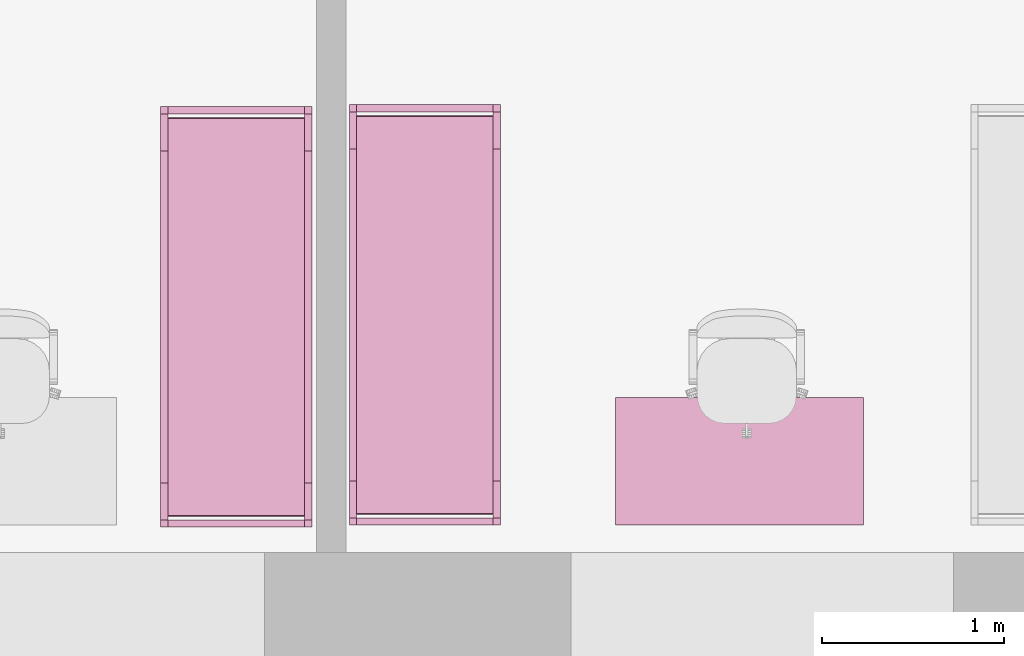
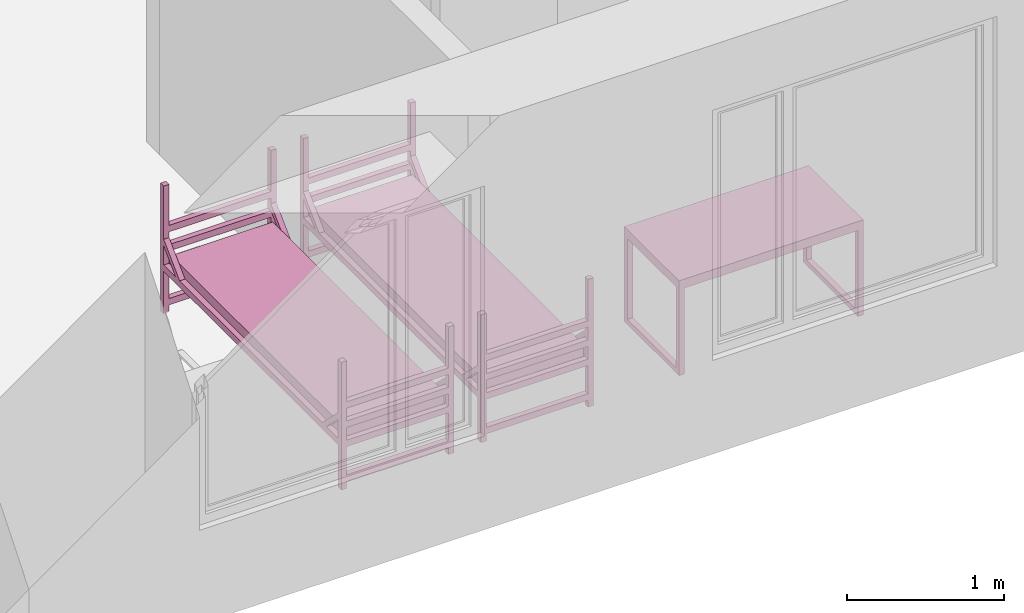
# One storey, part 19 of 46: 3 furnishings.
"""IFC2X3 building model written with IfcOpenShell, lengths in millimetres."""

from ifc_helpers import new_model, entity, si_unit, converted_unit, derived_unit, direction, frame, frame_2d, origin, origin_2d_with_axis, place, context, subcontext, project, spatial, polyline, circle_curve, parameter, trimmed, segment, composite_curve, rectangle, outline, extrude, faceted_brep, source, transform, mapped, material, material_list, type_object, type_shapes, element, save


model = new_model("IFC2X3")

# Units and contexts
model_context = context("Model", 3, precision=0.01, world=origin(), true_north=direction((6.12303176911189e-17, 1.0)))
body_context = subcontext(model_context, "Body", "Model", "MODEL_VIEW")
ifc_project = project(units=[si_unit("LENGTHUNIT", "METRE", prefix="MILLI"), si_unit("AREAUNIT", "SQUARE_METRE"), si_unit("VOLUMEUNIT", "CUBIC_METRE"), converted_unit("PLANEANGLEUNIT", "DEGREE", entity("IfcRatioMeasure", 0.0174532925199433), si_unit("PLANEANGLEUNIT", "RADIAN"), dimensions=[0, 0, 0, 0, 0, 0, 0]), si_unit("MASSUNIT", "GRAM", prefix="KILO"), derived_unit("MASSDENSITYUNIT", [(si_unit("MASSUNIT", "GRAM", prefix="KILO"), 1), (si_unit("LENGTHUNIT", "METRE"), -3)]), si_unit("TIMEUNIT", "SECOND"), si_unit("FREQUENCYUNIT", "HERTZ"), si_unit("THERMODYNAMICTEMPERATUREUNIT", "DEGREE_CELSIUS"), derived_unit("THERMALTRANSMITTANCEUNIT", [(si_unit("MASSUNIT", "GRAM", prefix="KILO"), 1), (si_unit("THERMODYNAMICTEMPERATUREUNIT", "KELVIN"), -1), (si_unit("TIMEUNIT", "SECOND"), -3)]), derived_unit("VOLUMETRICFLOWRATEUNIT", [(si_unit("LENGTHUNIT", "METRE"), 3), (si_unit("TIMEUNIT", "SECOND"), -1)]), si_unit("ELECTRICCURRENTUNIT", "AMPERE"), si_unit("ELECTRICVOLTAGEUNIT", "VOLT"), si_unit("POWERUNIT", "WATT"), si_unit("FORCEUNIT", "NEWTON", prefix="KILO"), si_unit("ILLUMINANCEUNIT", "LUX"), si_unit("LUMINOUSFLUXUNIT", "LUMEN"), si_unit("LUMINOUSINTENSITYUNIT", "CANDELA"), derived_unit("USERDEFINED", [(si_unit("MASSUNIT", "GRAM", prefix="KILO"), -1), (si_unit("LENGTHUNIT", "METRE"), -2), (si_unit("TIMEUNIT", "SECOND"), 3), (si_unit("LUMINOUSFLUXUNIT", "LUMEN"), 1)]), derived_unit("LINEARVELOCITYUNIT", [(si_unit("LENGTHUNIT", "METRE"), 1), (si_unit("TIMEUNIT", "SECOND"), -1)]), si_unit("PRESSUREUNIT", "PASCAL"), derived_unit("USERDEFINED", [(si_unit("LENGTHUNIT", "METRE"), -2), (si_unit("MASSUNIT", "GRAM", prefix="KILO"), 1), (si_unit("TIMEUNIT", "SECOND"), -2)]), derived_unit("LINEARFORCEUNIT", [(si_unit("MASSUNIT", "GRAM", prefix="KILO"), 1), (si_unit("LENGTHUNIT", "METRE"), 1), (si_unit("TIMEUNIT", "SECOND"), -2), (si_unit("LENGTHUNIT", "METRE"), -1)]), derived_unit("PLANARFORCEUNIT", [(si_unit("MASSUNIT", "GRAM", prefix="KILO"), 1), (si_unit("LENGTHUNIT", "METRE"), 1), (si_unit("TIMEUNIT", "SECOND"), -2), (si_unit("LENGTHUNIT", "METRE"), -2)])], contexts=[model_context])

# Site, building, storey, space
site_placement = place(None, origin())
site = spatial("IfcSite", under=ifc_project, at=site_placement, Name="Default", CompositionType="ELEMENT")
building_placement = place(site_placement, origin())
building = spatial("IfcBuilding", under=site, at=building_placement, Name="SMA ARH", CompositionType="ELEMENT")
storey_placement = place(building_placement, frame((0.0, 0.0, 9910.0)))
storey = spatial("IfcBuildingStorey", under=building, at=storey_placement, Name="4 Korrus", CompositionType="ELEMENT", Elevation=9909.9999999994)
space_1_placement = place(storey_placement, origin())
space_1 = spatial("IfcSpace", under=storey, at=space_1_placement, Name="4-15", CompositionType="ELEMENT", InteriorOrExteriorSpace="INTERNAL")

# Furnishing
ifc_material_1 = material(Name="Madrats")
furniture_type_1 = type_object("IfcFurnitureType", Name="Kasarmu voodi ühekordne 2308x830:Kasarmu voodi ühekordne 2308x830", material=ifc_material_1)
shared_shape_1 = source(origin(), body_context, "Body", "SweptSolid", [
    extrude(rectangle(XDim=39.9999999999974, YDim=750.000000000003, at=frame_2d((-1.35003119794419e-13, -2.8421709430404e-14), x_axis=(1.0, 0.0))), frame((1.68638457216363, -1226.7969571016, 55.0), z_axis=(0.0, 0.0, 1.0), x_axis=(0.0, -1.0, 0.0)), (0.0, 0.0, 1.0), 49.9999999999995),
    extrude(rectangle(XDim=39.9999999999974, YDim=750.000000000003, at=frame_2d((-1.35003119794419e-13, -2.8421709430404e-14), x_axis=(1.0, 0.0))), frame((1.68638457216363, -1226.7969571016, 325.0), z_axis=(0.0, 0.0, 1.0), x_axis=(0.0, -1.0, 0.0)), (0.0, 0.0, 1.0), 49.9999999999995),
    extrude(rectangle(XDim=39.9999999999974, YDim=750.000000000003, at=frame_2d((-1.35003119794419e-13, -2.8421709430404e-14), x_axis=(1.0, 0.0))), frame((1.68638457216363, -1226.7969571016, 475.0), z_axis=(0.0, 0.0, 1.0), x_axis=(0.0, -1.0, 0.0)), (0.0, 0.0, 1.0), 49.9999999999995),
    extrude(rectangle(XDim=39.9999999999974, YDim=750.000000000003, at=frame_2d((-1.35003119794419e-13, -2.8421709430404e-14), x_axis=(1.0, 0.0))), frame((1.68638457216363, -1226.7969571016, 625.0), z_axis=(0.0, 0.0, 1.0), x_axis=(0.0, -1.0, 0.0)), (0.0, 0.0, 1.0), 50.0000000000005),
    extrude(rectangle(XDim=39.9999999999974, YDim=750.000000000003, at=frame_2d((1.35003119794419e-13, -2.8421709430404e-14), x_axis=(1.0, 0.0))), frame((1.68638457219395, 1041.2030428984, 55.0), z_axis=(0.0, 0.0, 1.0), x_axis=(0.0, -1.0, 0.0)), (0.0, 0.0, 1.0), 50.0000000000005),
    extrude(rectangle(XDim=39.9999999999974, YDim=750.000000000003, at=frame_2d((1.35003119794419e-13, -2.8421709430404e-14), x_axis=(1.0, 0.0))), frame((1.68638457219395, 1041.2030428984, 325.0), z_axis=(0.0, 0.0, 1.0), x_axis=(0.0, -1.0, 0.0)), (0.0, 0.0, 1.0), 50.0000000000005),
    extrude(rectangle(XDim=39.9999999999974, YDim=750.000000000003, at=frame_2d((1.35003119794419e-13, -2.8421709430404e-14), x_axis=(1.0, 0.0))), frame((1.68638457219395, 1041.2030428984, 475.0), z_axis=(0.0, 0.0, 1.0), x_axis=(0.0, -1.0, 0.0)), (0.0, 0.0, 1.0), 50.0000000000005),
    extrude(rectangle(XDim=39.9999999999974, YDim=750.000000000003, at=frame_2d((1.35003119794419e-13, -2.8421709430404e-14), x_axis=(1.0, 0.0))), frame((1.68638457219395, 1041.2030428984, 625.0), z_axis=(0.0, 0.0, 1.0), x_axis=(0.0, -1.0, 0.0)), (0.0, 0.0, 1.0), 49.9999999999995),
    extrude(outline(composite_curve([segment(trimmed(circle_curve(frame_2d((1085.0, -40.0), x_axis=(1.0, 0.0)), 10.0), [parameter(270.0)], [parameter(0.0)], True, "PARAMETER"), True, "CONTINUOUS"), segment(polyline([(1095.0, -40.0), (1095.0, 40.0)]), True, "CONTINUOUS"), segment(trimmed(circle_curve(frame_2d((1085.0, 40.0), x_axis=(1.0, 0.0)), 10.0), [parameter(0.0)], [parameter(90.0000000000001)], True, "PARAMETER"), True, "CONTINUOUS"), segment(polyline([(1085.0, 50.0), (-1085.0, 50.0)]), True, "CONTINUOUS"), segment(trimmed(circle_curve(frame_2d((-1085.0, 40.0), x_axis=(1.0, 0.0)), 10.0), [parameter(90.0000000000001)], [parameter(180.0)], True, "PARAMETER"), True, "CONTINUOUS"), segment(polyline([(-1095.0, 40.0), (-1095.0, -40.0)]), True, "CONTINUOUS"), segment(trimmed(circle_curve(frame_2d((-1085.0, -40.0), x_axis=(1.0, 0.0)), 10.0), [parameter(180.0)], [parameter(270.0)], True, "PARAMETER"), True, "CONTINUOUS"), segment(polyline([(-1085.0, -50.0), (1085.0, -50.0)]), True, "CONTINUOUS")], self_intersect=False)), frame((-373.313615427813, -92.7969571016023, 405.0), z_axis=(1.0, 0.0, 0.0), x_axis=(0.0, -1.0, 0.0)), (0.0, 0.0, 1.0), 750.000000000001),
    extrude(outline(polyline([(-1114.0, -100.0), (1114.0, -100.0), (1114.0, -50.0), (961.59199141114, -50.0), (1114.0, 100.0), (1114.0, 150.0), (910.789321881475, -50.0), (-910.789321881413, -50.0), (-1114.0, 150.0), (-1114.0, 100.0), (-961.591991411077, -50.0), (-1114.0, -50.0), (-1114.0, -100.0)])), frame((-413.313615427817, -92.7969571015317, 430.0), z_axis=(1.0, 0.0, 0.0), x_axis=(0.0, 1.0, 0.0)), (0.0, 0.0, 1.0), 39.9999999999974),
    extrude(outline(polyline([(-1114.0, -100.0), (1114.0, -100.0), (1114.0, -50.0), (961.591991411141, -50.0), (1114.0, 100.0), (1114.0, 150.0), (910.789321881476, -50.0), (-910.789321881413, -50.0), (-1114.0, 150.0), (-1114.0, 100.0), (-961.591991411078, -50.0), (-1114.0, -50.0), (-1114.0, -100.0)])), frame((376.686384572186, -92.796957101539, 430.0), z_axis=(1.0, 0.0, 0.0), x_axis=(0.0, 1.0, 0.0)), (0.0, 0.0, 1.0), 39.9999999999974),
    extrude(rectangle(XDim=39.9999999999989, YDim=39.9999999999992, at=frame_2d((-6.75015598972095e-14, 0.0), x_axis=(1.0, 0.0))), frame((396.686384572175, -1226.79695710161, 0.0), z_axis=(0.0, 0.0, 1.0), x_axis=(0.0, 1.0, 0.0)), (0.0, 0.0, 1.0), 995.0),
    extrude(rectangle(XDim=39.9999999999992, YDim=39.9999999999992, at=frame_2d((-1.35003119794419e-13, 0.0), x_axis=(1.0, 0.0))), frame((396.686384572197, 1041.20304289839, 0.0), z_axis=(0.0, 0.0, 1.0), x_axis=(0.0, 1.0, 0.0)), (0.0, 0.0, 1.0), 995.0),
    extrude(rectangle(XDim=40.0000000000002, YDim=39.9999999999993, at=frame_2d((-1.35003119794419e-13, 0.0), x_axis=(1.0, 0.0))), frame((-393.313615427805, 1041.2030428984, 0.0), z_axis=(0.0, 0.0, 1.0), x_axis=(0.0, 1.0, 0.0)), (0.0, 0.0, 1.0), 995.0),
    extrude(rectangle(XDim=39.9999999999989, YDim=39.9999999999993, at=frame_2d((-6.75015598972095e-14, 0.0), x_axis=(1.0, 0.0))), frame((-393.313615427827, -1226.7969571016, 0.0), z_axis=(0.0, 0.0, 1.0), x_axis=(0.0, 1.0, 0.0)), (0.0, 0.0, 1.0), 995.0),
])
type_shapes(furniture_type_1, [shared_shape_1])
furnishing_1_placement = place(space_1_placement, frame((3185.0, 1200.0, 0.0), z_axis=(0.0, 0.0, 1.0), x_axis=(-1.0, 0.0, 0.0)))
element("IfcFurnishingElement", 1, at=furnishing_1_placement, inside=space_1, type_object=furniture_type_1, material=ifc_material_1, Name="Kasarmu voodi ühekordne 2308x830:Kasarmu voodi ühekordne 2308x830", ObjectType="Kasarmu voodi ühekordne 2308x830:Kasarmu voodi ühekordne 2308x830", context=body_context, shape_type="MappedRepresentation", body=[
    mapped(shared_shape_1, transform((0.0, 0.0, 0.0), scale=1.0)),
])

# Space
space_2_placement = place(storey_placement, origin())
space_2 = spatial("IfcSpace", under=storey, at=space_2_placement, Name="4-14", CompositionType="ELEMENT", InteriorOrExteriorSpace="INTERNAL")

# Furnishings
ifc_material_2 = material(Name="<Unnamed>")
ifc_material_list = material_list([ifc_material_2, ifc_material_2])
furniture_type_2 = type_object("IfcFurnitureType", Name="kirjutuslaud 1360x700mm:kirjutuslaud 1360x700mm", material=ifc_material_list)
shared_shape_2 = source(origin(), body_context, "Body", "Brep", [
    faceted_brep([(680.0, -350.0, 720.0), (680.0, 350.0, 720.0), (680.0, 350.0, 750.0), (680.0, -350.0, 750.0), (-680.0, -350.0, 720.0), (-680.0, -350.0, 750.0), (-680.0, 350.0, 750.0), (-680.0, 350.0, 720.0)], [[[0, 1, 2, 3]], [[4, 5, 6, 7]], [[1, 0, 4, 7]], [[2, 1, 7, 6]], [[3, 2, 6, 5]], [[0, 3, 5, 4]]]),
    faceted_brep([(-640.0, -310.0, 680.0), (-640.0, 310.0, 680.0), (-640.0, 310.0, 720.0), (-640.0, -310.0, 720.0), (-680.0, -350.0, 720.0), (-680.0, 350.0, 720.0), (-680.0, 350.0, 10.0), (-680.0, -350.0, 10.0), (-680.0, 310.0, 680.0), (-680.0, -310.0, 680.0), (-680.0, -310.0, 50.0), (-680.0, 310.0, 50.0), (-640.0, -350.0, 10.0), (-640.0, -350.0, 680.0), (640.0, -350.0, 680.0), (640.0, -350.0, 10.0), (680.0, -350.0, 10.0), (680.0, -350.0, 720.0), (-640.0, 350.0, 10.0), (680.0, 350.0, 720.0), (680.0, 350.0, 10.0), (640.0, 350.0, 10.0), (640.0, 350.0, 680.0), (-640.0, 350.0, 680.0), (640.0, 310.0, 720.0), (640.0, -310.0, 720.0), (-640.0, 310.0, 50.0), (-640.0, -310.0, 50.0), (640.0, -310.0, 680.0), (640.0, 310.0, 680.0), (680.0, 310.0, 680.0), (680.0, 310.0, 50.0), (680.0, -310.0, 50.0), (680.0, -310.0, 680.0), (640.0, -310.0, 50.0), (640.0, 310.0, 50.0)], [[[0, 1, 2, 3]], [[4, 5, 6, 7], [8, 9, 10, 11]], [[4, 7, 12, 13, 14, 15, 16, 17]], [[18, 12, 7, 6]], [[6, 5, 19, 20, 21, 22, 23, 18]], [[19, 5, 4, 17], [2, 24, 25, 3]], [[26, 1, 8, 11]], [[27, 26, 11, 10]], [[0, 27, 10, 9]], [[1, 0, 9, 8]], [[14, 13, 0, 28]], [[24, 2, 1, 29]], [[3, 25, 28, 0]], [[17, 16, 20, 19], [30, 31, 32, 33]], [[21, 15, 14, 28, 34, 35, 29, 22]], [[20, 16, 15, 21]], [[31, 30, 29, 35]], [[32, 31, 35, 34]], [[33, 32, 34, 28]], [[30, 33, 28, 29]], [[29, 28, 25, 24]], [[29, 1, 23, 22]], [[12, 18, 23, 1, 26, 27, 0, 13]]]),
    faceted_brep([(-663.729456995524, -270.466136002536, 0.0), (-659.847171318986, -269.955023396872, 0.0), (-655.964885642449, -270.466136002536, 0.0), (-652.347171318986, -271.964642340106, 0.0), (-649.240569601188, -274.348421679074, 0.0), (-646.85679026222, -277.455023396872, 0.0), (-645.35828392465, -281.072737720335, 0.0), (-644.847171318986, -284.955023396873, 0.0), (-645.35828392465, -288.83730907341, 0.0), (-646.85679026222, -292.455023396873, 0.0), (-649.240569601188, -295.561625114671, 0.0), (-652.347171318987, -297.945404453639, 0.0), (-655.964885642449, -299.443910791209, 0.0), (-659.847171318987, -299.955023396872, 0.0), (-663.729456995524, -299.443910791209, 0.0), (-667.347171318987, -297.945404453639, 0.0), (-670.453773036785, -295.561625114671, 0.0), (-672.837552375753, -292.455023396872, 0.0), (-674.336058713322, -288.83730907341, 0.0), (-674.847171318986, -284.955023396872, 0.0), (-674.336058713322, -281.072737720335, 0.0), (-672.837552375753, -277.455023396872, 0.0), (-670.453773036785, -274.348421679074, 0.0), (-667.347171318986, -271.964642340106, 0.0), (-655.964885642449, -299.443910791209, 10.0), (-652.347171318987, -297.945404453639, 10.0), (-649.240569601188, -295.561625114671, 10.0), (-646.85679026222, -292.455023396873, 10.0), (-645.35828392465, -288.83730907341, 10.0), (-644.847171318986, -284.955023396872, 10.0), (-645.35828392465, -281.072737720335, 10.0), (-646.85679026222, -277.455023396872, 10.0), (-649.240569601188, -274.348421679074, 10.0), (-652.347171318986, -271.964642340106, 10.0), (-655.964885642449, -270.466136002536, 10.0), (-659.847171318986, -269.955023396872, 10.0), (-663.729456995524, -270.466136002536, 10.0), (-667.347171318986, -271.964642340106, 10.0), (-670.453773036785, -274.348421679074, 10.0), (-672.837552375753, -277.455023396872, 10.0), (-674.336058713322, -281.072737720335, 10.0), (-674.847171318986, -284.955023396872, 10.0), (-674.336058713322, -288.83730907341, 10.0), (-672.837552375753, -292.455023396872, 10.0), (-670.453773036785, -295.561625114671, 10.0), (-667.347171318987, -297.945404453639, 10.0), (-663.729456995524, -299.443910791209, 10.0), (-659.847171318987, -299.955023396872, 10.0)], [[[0, 1, 2, 3, 4, 5, 6, 7, 8, 9, 10, 11, 12, 13, 14, 15, 16, 17, 18, 19, 20, 21, 22, 23]], [[24, 25, 26, 27, 28, 29, 30, 31, 32, 33, 34, 35, 36, 37, 38, 39, 40, 41, 42, 43, 44, 45, 46, 47]], [[18, 42, 41, 19]], [[17, 43, 42, 18]], [[45, 44, 16, 15]], [[17, 16, 44, 43]], [[46, 45, 15, 14]], [[47, 46, 14, 13]], [[12, 24, 47, 13]], [[11, 25, 24, 12]], [[27, 26, 10, 9]], [[11, 10, 26, 25]], [[28, 27, 9, 8]], [[29, 28, 8, 7]], [[6, 30, 29, 7]], [[5, 31, 30, 6]], [[33, 32, 4, 3]], [[5, 4, 32, 31]], [[34, 33, 3, 2]], [[35, 34, 2, 1]], [[0, 36, 35, 1]], [[23, 37, 36, 0]], [[39, 38, 22, 21]], [[23, 22, 38, 37]], [[40, 39, 21, 20]], [[41, 40, 20, 19]]]),
    faceted_brep([(-655.964885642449, 270.466136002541, 10.0), (-652.347171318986, 271.964642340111, 10.0), (-649.240569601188, 274.348421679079, 10.0), (-646.85679026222, 277.455023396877, 10.0), (-645.35828392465, 281.07273772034, 10.0), (-644.847171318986, 284.955023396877, 10.0), (-645.35828392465, 288.837309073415, 10.0), (-646.85679026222, 292.455023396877, 10.0), (-649.240569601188, 295.561625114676, 10.0), (-652.347171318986, 297.945404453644, 10.0), (-655.964885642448, 299.443910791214, 10.0), (-659.847171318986, 299.955023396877, 10.0), (-663.729456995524, 299.443910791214, 10.0), (-667.347171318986, 297.945404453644, 10.0), (-670.453773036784, 295.561625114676, 10.0), (-672.837552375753, 292.455023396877, 10.0), (-674.336058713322, 288.837309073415, 10.0), (-674.847171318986, 284.955023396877, 10.0), (-674.336058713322, 281.07273772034, 10.0), (-672.837552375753, 277.455023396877, 10.0), (-670.453773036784, 274.348421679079, 10.0), (-667.347171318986, 271.964642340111, 10.0), (-663.729456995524, 270.466136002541, 10.0), (-659.847171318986, 269.955023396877, 10.0), (-655.964885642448, 299.443910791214, 0.0), (-652.347171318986, 297.945404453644, 0.0), (-649.240569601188, 295.561625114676, 0.0), (-646.85679026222, 292.455023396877, 0.0), (-645.35828392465, 288.837309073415, 0.0), (-644.847171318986, 284.955023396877, 0.0), (-645.35828392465, 281.07273772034, 0.0), (-646.85679026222, 277.455023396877, 0.0), (-649.240569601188, 274.348421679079, 0.0), (-652.347171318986, 271.964642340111, 0.0), (-655.964885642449, 270.466136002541, 0.0), (-659.847171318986, 269.955023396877, 0.0), (-663.729456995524, 270.466136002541, 0.0), (-667.347171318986, 271.964642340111, 0.0), (-670.453773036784, 274.348421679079, 0.0), (-672.837552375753, 277.455023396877, 0.0), (-674.336058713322, 281.07273772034, 0.0), (-674.847171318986, 284.955023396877, 0.0), (-674.336058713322, 288.837309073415, 0.0), (-672.837552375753, 292.455023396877, 0.0), (-670.453773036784, 295.561625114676, 0.0), (-667.347171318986, 297.945404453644, 0.0), (-663.729456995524, 299.443910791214, 0.0), (-659.847171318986, 299.955023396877, 0.0)], [[[0, 1, 2, 3, 4, 5, 6, 7, 8, 9, 10, 11, 12, 13, 14, 15, 16, 17, 18, 19, 20, 21, 22, 23]], [[24, 25, 26, 27, 28, 29, 30, 31, 32, 33, 34, 35, 36, 37, 38, 39, 40, 41, 42, 43, 44, 45, 46, 47]], [[40, 18, 17, 41]], [[39, 19, 18, 40]], [[21, 20, 38, 37]], [[39, 38, 20, 19]], [[22, 21, 37, 36]], [[23, 22, 36, 35]], [[34, 0, 23, 35]], [[33, 1, 0, 34]], [[3, 2, 32, 31]], [[33, 32, 2, 1]], [[4, 3, 31, 30]], [[5, 4, 30, 29]], [[28, 6, 5, 29]], [[27, 7, 6, 28]], [[9, 8, 26, 25]], [[27, 26, 8, 7]], [[10, 9, 25, 24]], [[11, 10, 24, 47]], [[46, 12, 11, 47]], [[45, 13, 12, 46]], [[15, 14, 44, 43]], [[45, 44, 14, 13]], [[16, 15, 43, 42]], [[17, 16, 42, 41]]]),
    faceted_brep([(656.270543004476, -270.466136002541, 0.0), (660.152828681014, -269.955023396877, 0.0), (664.035114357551, -270.466136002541, 0.0), (667.652828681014, -271.96464234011, 0.0), (670.759430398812, -274.348421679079, 0.0), (673.14320973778, -277.455023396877, 0.0), (674.64171607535, -281.072737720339, 0.0), (675.152828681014, -284.955023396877, 0.0), (674.64171607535, -288.837309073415, 0.0), (673.14320973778, -292.455023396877, 0.0), (670.759430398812, -295.561625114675, 0.0), (667.652828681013, -297.945404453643, 0.0), (664.035114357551, -299.443910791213, 0.0), (660.152828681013, -299.955023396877, 0.0), (656.270543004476, -299.443910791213, 0.0), (652.652828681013, -297.945404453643, 0.0), (649.546226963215, -295.561625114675, 0.0), (647.162447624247, -292.455023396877, 0.0), (645.663941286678, -288.837309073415, 0.0), (645.152828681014, -284.955023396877, 0.0), (645.663941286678, -281.072737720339, 0.0), (647.162447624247, -277.455023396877, 0.0), (649.546226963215, -274.348421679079, 0.0), (652.652828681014, -271.96464234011, 0.0), (664.035114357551, -299.443910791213, 10.0), (667.652828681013, -297.945404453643, 10.0), (670.759430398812, -295.561625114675, 10.0), (673.14320973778, -292.455023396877, 10.0), (674.64171607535, -288.837309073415, 10.0), (675.152828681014, -284.955023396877, 10.0), (674.64171607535, -281.072737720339, 10.0), (673.14320973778, -277.455023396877, 10.0), (670.759430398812, -274.348421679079, 10.0), (667.652828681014, -271.96464234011, 10.0), (664.035114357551, -270.466136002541, 10.0), (660.152828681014, -269.955023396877, 10.0), (656.270543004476, -270.466136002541, 10.0), (652.652828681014, -271.96464234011, 10.0), (649.546226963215, -274.348421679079, 10.0), (647.162447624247, -277.455023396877, 10.0), (645.663941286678, -281.072737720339, 10.0), (645.152828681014, -284.955023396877, 10.0), (645.663941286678, -288.837309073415, 10.0), (647.162447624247, -292.455023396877, 10.0), (649.546226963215, -295.561625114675, 10.0), (652.652828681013, -297.945404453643, 10.0), (656.270543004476, -299.443910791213, 10.0), (660.152828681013, -299.955023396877, 10.0)], [[[0, 1, 2, 3, 4, 5, 6, 7, 8, 9, 10, 11, 12, 13, 14, 15, 16, 17, 18, 19, 20, 21, 22, 23]], [[24, 25, 26, 27, 28, 29, 30, 31, 32, 33, 34, 35, 36, 37, 38, 39, 40, 41, 42, 43, 44, 45, 46, 47]], [[18, 42, 41, 19]], [[17, 43, 42, 18]], [[45, 44, 16, 15]], [[17, 16, 44, 43]], [[46, 45, 15, 14]], [[47, 46, 14, 13]], [[12, 24, 47, 13]], [[11, 25, 24, 12]], [[27, 26, 10, 9]], [[11, 10, 26, 25]], [[28, 27, 9, 8]], [[29, 28, 8, 7]], [[6, 30, 29, 7]], [[5, 31, 30, 6]], [[33, 32, 4, 3]], [[5, 4, 32, 31]], [[34, 33, 3, 2]], [[35, 34, 2, 1]], [[0, 36, 35, 1]], [[23, 37, 36, 0]], [[39, 38, 22, 21]], [[23, 22, 38, 37]], [[40, 39, 21, 20]], [[41, 40, 20, 19]]]),
    faceted_brep([(664.035114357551, 270.466136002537, 10.0), (667.652828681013, 271.964642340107, 10.0), (670.759430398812, 274.348421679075, 10.0), (673.14320973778, 277.455023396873, 10.0), (674.64171607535, 281.072737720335, 10.0), (675.152828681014, 284.955023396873, 10.0), (674.64171607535, 288.837309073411, 10.0), (673.14320973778, 292.455023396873, 10.0), (670.759430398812, 295.561625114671, 10.0), (667.652828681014, 297.94540445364, 10.0), (664.035114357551, 299.443910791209, 10.0), (660.152828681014, 299.955023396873, 10.0), (656.270543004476, 299.443910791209, 10.0), (652.652828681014, 297.94540445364, 10.0), (649.546226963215, 295.561625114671, 10.0), (647.162447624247, 292.455023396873, 10.0), (645.663941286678, 288.837309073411, 10.0), (645.152828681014, 284.955023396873, 10.0), (645.663941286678, 281.072737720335, 10.0), (647.162447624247, 277.455023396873, 10.0), (649.546226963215, 274.348421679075, 10.0), (652.652828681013, 271.964642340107, 10.0), (656.270543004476, 270.466136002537, 10.0), (660.152828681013, 269.955023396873, 10.0), (664.035114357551, 299.443910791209, 0.0), (667.652828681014, 297.94540445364, 0.0), (670.759430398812, 295.561625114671, 0.0), (673.14320973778, 292.455023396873, 0.0), (674.64171607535, 288.837309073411, 0.0), (675.152828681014, 284.955023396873, 0.0), (674.64171607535, 281.072737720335, 0.0), (673.14320973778, 277.455023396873, 0.0), (670.759430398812, 274.348421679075, 0.0), (667.652828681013, 271.964642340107, 0.0), (664.035114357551, 270.466136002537, 0.0), (660.152828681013, 269.955023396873, 0.0), (656.270543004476, 270.466136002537, 0.0), (652.652828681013, 271.964642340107, 0.0), (649.546226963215, 274.348421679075, 0.0), (647.162447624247, 277.455023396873, 0.0), (645.663941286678, 281.072737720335, 0.0), (645.152828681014, 284.955023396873, 0.0), (645.663941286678, 288.837309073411, 0.0), (647.162447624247, 292.455023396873, 0.0), (649.546226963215, 295.561625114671, 0.0), (652.652828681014, 297.94540445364, 0.0), (656.270543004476, 299.443910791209, 0.0), (660.152828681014, 299.955023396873, 0.0)], [[[0, 1, 2, 3, 4, 5, 6, 7, 8, 9, 10, 11, 12, 13, 14, 15, 16, 17, 18, 19, 20, 21, 22, 23]], [[24, 25, 26, 27, 28, 29, 30, 31, 32, 33, 34, 35, 36, 37, 38, 39, 40, 41, 42, 43, 44, 45, 46, 47]], [[40, 18, 17, 41]], [[39, 19, 18, 40]], [[21, 20, 38, 37]], [[39, 38, 20, 19]], [[22, 21, 37, 36]], [[23, 22, 36, 35]], [[34, 0, 23, 35]], [[33, 1, 0, 34]], [[3, 2, 32, 31]], [[33, 32, 2, 1]], [[4, 3, 31, 30]], [[5, 4, 30, 29]], [[28, 6, 5, 29]], [[27, 7, 6, 28]], [[9, 8, 26, 25]], [[27, 26, 8, 7]], [[10, 9, 25, 24]], [[11, 10, 24, 47]], [[46, 12, 11, 47]], [[45, 13, 12, 46]], [[15, 14, 44, 43]], [[45, 44, 14, 13]], [[16, 15, 43, 42]], [[17, 16, 42, 41]]]),
])
type_shapes(furniture_type_2, [shared_shape_2])
furnishing_2_placement = place(space_2_placement, frame((5945.50000000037, 500.0, 0.0)))
element("IfcFurnishingElement", 2, at=furnishing_2_placement, inside=space_2, type_object=furniture_type_2, Name="kirjutuslaud 1360x700mm:kirjutuslaud 1360x700mm", ObjectType="kirjutuslaud 1360x700mm:kirjutuslaud 1360x700mm", context=body_context, shape_type="MappedRepresentation", body=[
    mapped(shared_shape_2, transform((0.0, 0.0, 0.0), scale=1.0)),
])
furniture_type_3 = type_object("IfcFurnitureType", Name="Kasarmu voodi ühekordne 2308x830:Kasarmu voodi ühekordne 2308x830", material=ifc_material_1)
shared_shape_3 = source(origin(), body_context, "Body", "SweptSolid", [
    extrude(rectangle(XDim=750.000000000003, YDim=39.9999999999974, at=frame_2d((0.0, 1.35003119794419e-13), x_axis=(1.0, 0.0))), frame((1.68638457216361, 1226.7969571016, 55.0)), (0.0, 0.0, 1.0), 49.9999999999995),
    extrude(rectangle(XDim=750.000000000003, YDim=39.9999999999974, at=frame_2d((0.0, 1.35003119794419e-13), x_axis=(1.0, 0.0))), frame((1.68638457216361, 1226.7969571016, 325.0)), (0.0, 0.0, 1.0), 49.9999999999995),
    extrude(rectangle(XDim=750.000000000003, YDim=39.9999999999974, at=frame_2d((0.0, 1.35003119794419e-13), x_axis=(1.0, 0.0))), frame((1.68638457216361, 1226.7969571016, 475.0)), (0.0, 0.0, 1.0), 49.9999999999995),
    extrude(rectangle(XDim=750.000000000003, YDim=39.9999999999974, at=frame_2d((0.0, 1.35003119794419e-13), x_axis=(1.0, 0.0))), frame((1.68638457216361, 1226.7969571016, 625.0)), (0.0, 0.0, 1.0), 50.0000000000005),
    extrude(rectangle(XDim=750.000000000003, YDim=39.9999999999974, at=origin_2d_with_axis()), frame((1.68638457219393, -1041.2030428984, 55.0)), (0.0, 0.0, 1.0), 50.0000000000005),
    extrude(rectangle(XDim=750.000000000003, YDim=39.9999999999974, at=origin_2d_with_axis()), frame((1.68638457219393, -1041.2030428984, 325.0)), (0.0, 0.0, 1.0), 50.0000000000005),
    extrude(rectangle(XDim=750.000000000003, YDim=39.9999999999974, at=origin_2d_with_axis()), frame((1.68638457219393, -1041.2030428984, 475.0)), (0.0, 0.0, 1.0), 50.0000000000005),
    extrude(rectangle(XDim=750.000000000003, YDim=39.9999999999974, at=origin_2d_with_axis()), frame((1.68638457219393, -1041.2030428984, 625.0)), (0.0, 0.0, 1.0), 49.9999999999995),
    extrude(outline(composite_curve([segment(polyline([(-1085.0, -50.0), (1085.0, -50.0)]), True, "CONTINUOUS"), segment(trimmed(circle_curve(frame_2d((1085.0, -40.0), x_axis=(-1.0, 0.0)), 10.0), [parameter(90.0000000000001)], [parameter(180.0)], True, "PARAMETER"), True, "CONTINUOUS"), segment(polyline([(1095.0, -40.0), (1095.0, 40.0)]), True, "CONTINUOUS"), segment(trimmed(circle_curve(frame_2d((1085.0, 40.0), x_axis=(-1.0, 0.0)), 10.0), [parameter(180.0)], [parameter(270.0)], True, "PARAMETER"), True, "CONTINUOUS"), segment(polyline([(1085.0, 50.0), (-1085.0, 50.0)]), True, "CONTINUOUS"), segment(trimmed(circle_curve(frame_2d((-1085.0, 40.0), x_axis=(-1.0, 0.0)), 10.0), [parameter(270.0)], [parameter(0.0)], True, "PARAMETER"), True, "CONTINUOUS"), segment(polyline([(-1095.0, 40.0), (-1095.0, -40.0)]), True, "CONTINUOUS"), segment(trimmed(circle_curve(frame_2d((-1085.0, -40.0), x_axis=(-1.0, 0.0)), 10.0), [parameter(0.0)], [parameter(90.0000000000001)], True, "PARAMETER"), True, "CONTINUOUS")], self_intersect=False)), frame((-373.313615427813, 92.7969571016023, 405.0), z_axis=(1.0, 0.0, 0.0), x_axis=(0.0, -1.0, 0.0)), (0.0, 0.0, 1.0), 750.000000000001),
    extrude(outline(polyline([(-100.0, -1114.0), (-50.0, -1114.0), (-50.0, -961.591991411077), (100.0, -1114.0), (150.0, -1114.0), (-50.0, -910.789321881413), (-50.0, 910.789321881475), (150.0, 1114.0), (100.0, 1114.0), (-50.0, 961.591991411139), (-50.0, 1114.0), (-100.0, 1114.0), (-100.0, -1114.0)])), frame((-413.313615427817, 92.7969571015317, 430.0), z_axis=(1.0, 0.0, 0.0), x_axis=(0.0, 0.0, 1.0)), (0.0, 0.0, 1.0), 39.9999999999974),
    extrude(outline(polyline([(-100.0, -1114.0), (-50.0, -1114.0), (-50.0, -961.591991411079), (100.0, -1114.0), (150.0, -1114.0), (-50.0, -910.789321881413), (-50.0, 910.789321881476), (150.0, 1114.0), (100.0, 1114.0), (-50.0, 961.591991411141), (-50.0, 1114.0), (-100.0, 1114.0), (-100.0, -1114.0)])), frame((376.686384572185, 92.796957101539, 430.0), z_axis=(1.0, 0.0, 0.0), x_axis=(0.0, 0.0, 1.0)), (0.0, 0.0, 1.0), 39.9999999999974),
    extrude(rectangle(XDim=39.9999999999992, YDim=39.9999999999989, at=frame_2d((0.0, -6.75015598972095e-14), x_axis=(1.0, 0.0))), frame((396.686384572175, 1226.79695710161, 0.0), z_axis=(0.0, 0.0, 1.0), x_axis=(-1.0, 0.0, 0.0)), (0.0, 0.0, 1.0), 995.0),
    extrude(rectangle(XDim=39.9999999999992, YDim=39.9999999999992, at=origin_2d_with_axis()), frame((396.686384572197, -1041.20304289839, 0.0), z_axis=(0.0, 0.0, 1.0), x_axis=(-1.0, 0.0, 0.0)), (0.0, 0.0, 1.0), 995.0),
    extrude(rectangle(XDim=39.9999999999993, YDim=40.0000000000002, at=origin_2d_with_axis()), frame((-393.313615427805, -1041.2030428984, 0.0), z_axis=(0.0, 0.0, 1.0), x_axis=(-1.0, 0.0, 0.0)), (0.0, 0.0, 1.0), 995.0),
    extrude(rectangle(XDim=39.9999999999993, YDim=39.9999999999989, at=frame_2d((0.0, -6.75015598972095e-14), x_axis=(1.0, 0.0))), frame((-393.313615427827, 1226.7969571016, 0.0), z_axis=(0.0, 0.0, 1.0), x_axis=(-1.0, 0.0, 0.0)), (0.0, 0.0, 1.0), 995.0),
])
type_shapes(furniture_type_3, [shared_shape_3])
furnishing_3_placement = place(space_2_placement, frame((4220.68638457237, 1396.79695710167, 0.0), z_axis=(0.0, 0.0, 1.0), x_axis=(-1.0, 0.0, 0.0)))
element("IfcFurnishingElement", 3, at=furnishing_3_placement, inside=space_2, type_object=furniture_type_3, material=ifc_material_1, Name="Kasarmu voodi ühekordne 2308x830:Kasarmu voodi ühekordne 2308x830", ObjectType="Kasarmu voodi ühekordne 2308x830:Kasarmu voodi ühekordne 2308x830", context=body_context, shape_type="MappedRepresentation", body=[
    mapped(shared_shape_3, transform((0.0, 0.0, 0.0), scale=1.0)),
])

save(model, "model.ifc")
